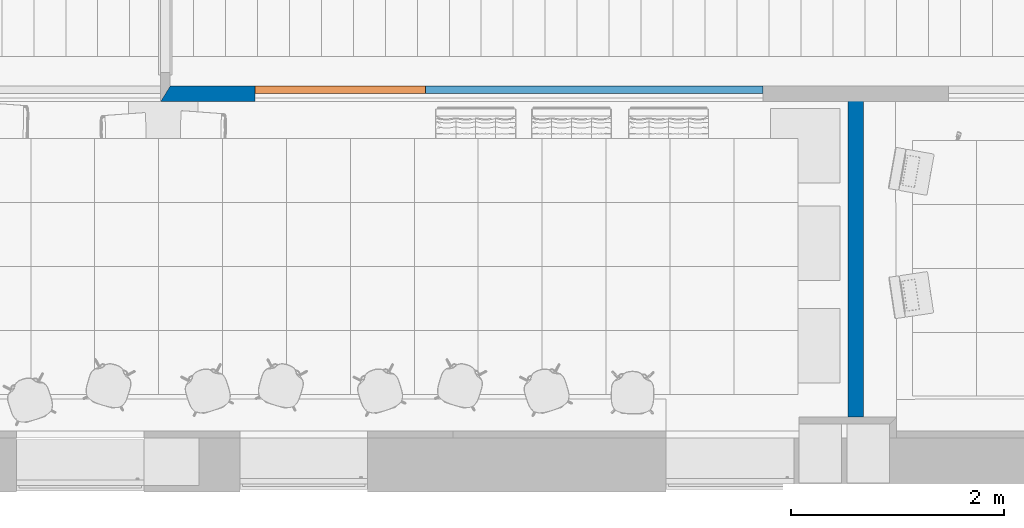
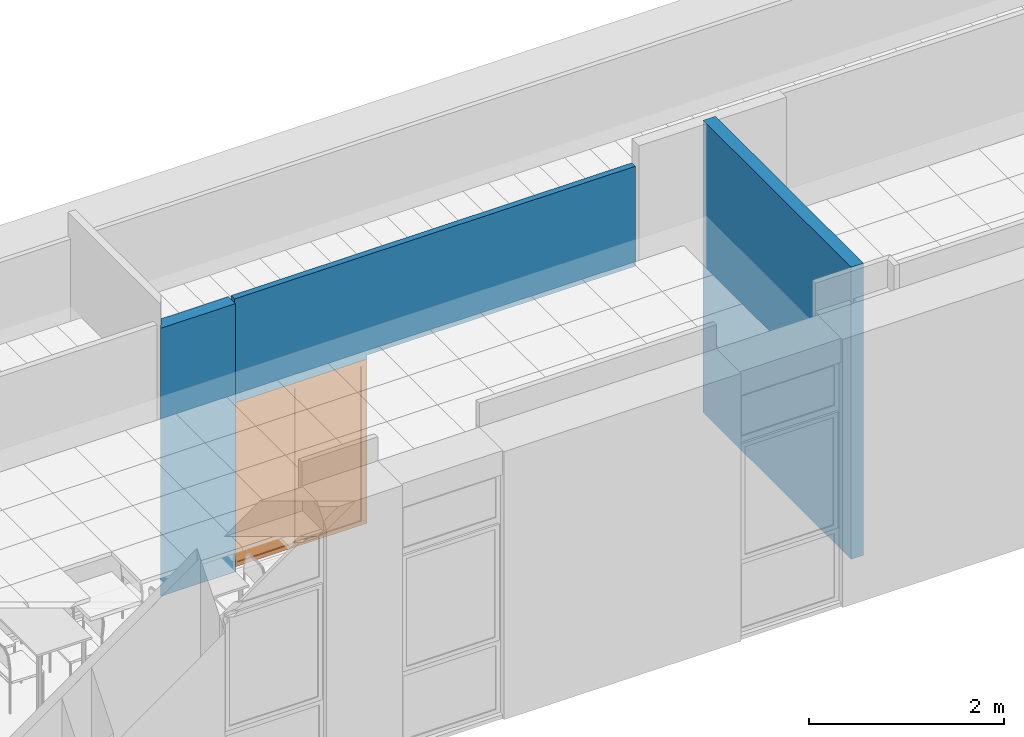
# One storey, part 36 of 60: 3 walls, 1 proxy, 2 openings.
"""IFC2X3 building model written with IfcOpenShell, lengths in millimetres."""

from ifc_helpers import new_model, entity, si_unit, converted_unit, derived_unit, money_unit, direction, frame, origin_with_axes, origin_2d_with_axis, place, context, subcontext, project, spatial, polyline, rectangle, outline, extrude, open_shell, faceted_brep, surface_model, source, transform, mapped, material, layer, layer_set, layer_usage, type_object, element, fill, save


model = new_model("IFC2X3")

# Units and contexts
model_context = context("Model", 3, precision=0.01, world=origin_with_axes(), true_north=direction((0.0, 1.0)))
body_context = subcontext(model_context, "Body", "Model", "MODEL_VIEW")
ifc_project = project(units=[si_unit("LENGTHUNIT", "METRE", prefix="MILLI"), si_unit("AREAUNIT", "SQUARE_METRE"), si_unit("VOLUMEUNIT", "CUBIC_METRE"), converted_unit("PLANEANGLEUNIT", "DEGREE", entity("IfcPlaneAngleMeasure", 0.0174532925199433), si_unit("PLANEANGLEUNIT", "RADIAN"), dimensions=[0, 0, 0, 0, 0, 0, 0]), money_unit("USD"), converted_unit("TIMEUNIT", "Year", entity("IfcTimeMeasure", 31557600.0), si_unit("TIMEUNIT", "SECOND"), dimensions=[0, 0, 1, 0, 0, 0, 0]), si_unit("MASSUNIT", "GRAM", prefix="KILO"), si_unit("THERMODYNAMICTEMPERATUREUNIT", "DEGREE_CELSIUS"), si_unit("LUMINOUSINTENSITYUNIT", "LUMEN"), si_unit("ENERGYUNIT", "JOULE", prefix="MEGA"), derived_unit("THERMALCONDUCTANCEUNIT", [(si_unit("POWERUNIT", "WATT"), 1), (si_unit("LENGTHUNIT", "METRE"), -1), (si_unit("THERMODYNAMICTEMPERATUREUNIT", "KELVIN"), -1)]), derived_unit("SPECIFICHEATCAPACITYUNIT", [(si_unit("ENERGYUNIT", "JOULE"), 1), (si_unit("MASSUNIT", "GRAM", prefix="KILO"), -1), (si_unit("THERMODYNAMICTEMPERATUREUNIT", "KELVIN"), -1)]), derived_unit("MASSDENSITYUNIT", [(si_unit("MASSUNIT", "GRAM", prefix="KILO"), 1), (si_unit("VOLUMEUNIT", "CUBIC_METRE"), -1)])], contexts=[model_context])

# Site, building, storey
site_placement = place(None, origin_with_axes())
site = spatial("IfcSite", under=ifc_project, at=site_placement, Name="Sitio", CompositionType="ELEMENT")
building_placement = place(site_placement, origin_with_axes())
building = spatial("IfcBuilding", under=site, at=building_placement, Name="Construcción", CompositionType="ELEMENT")
storey_placement = place(building_placement, frame((0.0, 0.0, 3650.0), z_axis=(0.0, 0.0, 1.0), x_axis=(1.0, 0.0, 0.0)))
storey = spatial("IfcBuildingStorey", under=building, at=storey_placement, Name="PLANTA 2ª", CompositionType="ELEMENT", Elevation=3650.0)

# Wall, openings, proxy
ifc_material_1 = material(Name="Panel de Yeso Laminado")
ifc_layer_1 = layer(ifc_material_1, 5.0, ventilated="UNKNOWN")
ifc_material_2 = material(Name="ARQ_AI033_Aillament_Llana_De_Roca")
ifc_layer_2 = layer(ifc_material_2, 60.0, ventilated="UNKNOWN")
ifc_layer_3 = layer(ifc_material_1, 5.0, ventilated="UNKNOWN")
ifc_layer_set_1 = layer_set([ifc_layer_1, ifc_layer_2, ifc_layer_3], Name="CR- MAMPARA")
ifc_layer_usage_1 = layer_usage(ifc_layer_set_1, "AXIS2", "POSITIVE", 0.0)
wall_type_1 = type_object("IfcWallType", Name="CR- MAMPARA 70", PredefinedType="NOTDEFINED")
wall_1_placement = place(storey_placement, frame((-13225.05292641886, 2109.554870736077, 0.0), z_axis=(0.0, 0.0, 1.0), x_axis=(-1.0, 0.0, 0.0)))
wall_1 = element("IfcWallStandardCase", 1, at=wall_1_placement, inside=storey, type_object=wall_type_1, material=ifc_layer_usage_1, Name="MS-214", context=body_context, shape_type="SweptSolid", body=[
    extrude(outline(polyline([(0.0, 0.0), (4737.123026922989, 0.0), (4737.123026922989, 69.99999999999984), (0.0, 69.99999999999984), (0.0, 0.0)])), origin_with_axes(), (0.0, 0.0, 1.0), 3350.0),
])
opening_1_placement = place(wall_1_placement, frame((1584.988959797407, 0.0, 0.0), z_axis=(0.0, 0.0, 1.0), x_axis=(1.0, 0.0, 0.0)))
element("IfcOpeningElement", 2, at=opening_1_placement, cuts=wall_1, Name="M-13", context=body_context, shape_type="SweptSolid", body=[
    extrude(rectangle(XDim=3169.977919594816, YDim=2100.0, at=origin_2d_with_axis()), frame((0.0, -69.99999999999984, 1050.0), z_axis=(0.0, 1.0, 0.0), x_axis=(-1.0, 0.0, 0.0)), (0.0, 0.0, 1.0), 210.0),
])
opening_2_placement = place(wall_1_placement, frame((3969.977919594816, 0.0, 0.0), z_axis=(0.0, 0.0, 1.0), x_axis=(1.0, 0.0, 0.0)))
opening_2 = element("IfcOpeningElement", 3, at=opening_2_placement, cuts=wall_1, Name="PM-4", context=body_context, shape_type="SweptSolid", body=[
    extrude(rectangle(XDim=1600.000000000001, YDim=2050.0, at=origin_2d_with_axis()), frame((0.0, -69.99999999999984, 1025.0), z_axis=(0.0, 1.0, 0.0), x_axis=(1.0, 0.0, 0.0)), (0.0, 0.0, 1.0), 210.0),
])
building_element_proxy_type = type_object("IfcBuildingElementProxyType", Name="Puerta Doble 27", PredefinedType="NOTDEFINED")
shared_shape = source(origin_with_axes(), body_context, "Body", "SurfaceModel", [
    faceted_brep([(-770.0, -40.0, 0.0), (-770.0, -40.0, 2020.0), (-770.0, -70.0, 2020.0), (-770.0, -70.0, 0.0), (-782.0, -40.0, 2020.0), (-782.0, -40.0, 0.0), (-782.0, 0.0, 2020.0), (-800.0, 0.0, 2020.0), (-800.0, -70.0, 2020.0), (-800.0, -70.0, 0.0), (-800.0, 0.0, 0.0), (-782.0, 0.0, 0.0)], [[[0, 1, 2, 3]], [[4, 1, 0, 5]], [[4, 6, 7, 8, 2, 1]], [[3, 2, 8, 9]], [[5, 0, 3, 9, 10, 11]], [[6, 4, 5, 11]], [[6, 11, 10, 7]], [[10, 9, 8, 7]]]),
    faceted_brep([(782.0, -40.0, 2020.0), (770.0, -40.0, 2020.0), (770.0, -70.0, 2020.0), (800.0, -70.0, 2020.0), (800.0, 0.0, 2020.0), (782.0, 0.0, 2020.0), (782.0, -40.0, 0.0), (770.0, -40.0, 0.0), (770.0, -70.0, 0.0), (800.0, -70.0, 0.0), (800.0, 0.0, 0.0), (782.0, 0.0, 0.0)], [[[0, 1, 2, 3, 4, 5]], [[1, 0, 6, 7]], [[1, 7, 8, 2]], [[3, 2, 8, 9]], [[4, 3, 9, 10]], [[11, 5, 4, 10]], [[0, 5, 11, 6]], [[6, 11, 10, 9, 8, 7]]]),
    faceted_brep([(-782.0, 0.0, 2032.0), (-782.0, 0.0, 2020.0), (-800.0, 0.0, 2020.0), (-800.0, 0.0, 2050.0), (800.0, 0.0, 2050.0), (800.0, 0.0, 2020.0), (782.0, 0.0, 2020.0), (782.0, 0.0, 2032.0), (-782.0, -40.0, 2032.0), (-782.0, -40.0, 2020.0), (-770.0, -40.0, 2020.0), (-770.0, -70.0, 2020.0), (-800.0, -70.0, 2020.0), (-800.0, -70.0, 2050.0), (800.0, -70.0, 2050.0), (800.0, -70.0, 2020.0), (782.0, -40.0, 2020.0), (770.0, -70.0, 2020.0), (770.0, -40.0, 2020.0), (782.0, -40.0, 2032.0)], [[[0, 1, 2, 3, 4, 5, 6, 7]], [[1, 0, 8, 9]], [[9, 10, 11, 12, 2, 1]], [[2, 12, 13, 3]], [[3, 13, 14, 4]], [[4, 14, 15, 5]], [[16, 6, 5, 15, 17, 18]], [[7, 6, 16, 19]], [[0, 7, 19, 8]], [[16, 18, 10, 9, 8, 19]], [[10, 18, 17, 11]], [[17, 15, 14, 13, 12, 11]]]),
    faceted_brep([(782.0, 0.0, 50.0), (782.0, -40.0, 50.0), (732.0, -40.0, 50.0), (732.0, 0.0, 50.0), (782.0, 0.0, 1982.0), (782.0, -40.00000000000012, 1982.0), (732.0, -40.00000000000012, 1982.0), (732.0, 0.0, 1982.0)], [[[0, 1, 2, 3]], [[4, 5, 1, 0]], [[1, 5, 6, 2]], [[3, 2, 6, 7]], [[0, 3, 7, 4]], [[7, 6, 5, 4]]]),
    faceted_brep([(0.0, 0.0, 50.0), (0.0, -40.0, 50.0), (0.0, -40.00000000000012, 1982.0), (0.0, 0.0, 1982.0), (49.99999999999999, 0.0, 50.0), (49.99999999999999, -40.0, 50.0), (49.99999999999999, -40.00000000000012, 1982.0), (49.99999999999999, 0.0, 1982.0)], [[[0, 1, 2, 3]], [[4, 5, 1, 0]], [[1, 5, 6, 2]], [[3, 2, 6, 7]], [[0, 3, 7, 4]], [[7, 6, 5, 4]]]),
    faceted_brep([(782.0, 0.0, 0.0), (782.0, -40.0, 0.0), (0.0, -40.0, 0.0), (0.0, 0.0, 0.0), (782.0, 0.0, 50.0), (782.0, -40.0, 50.0), (732.0, -40.0, 50.0), (49.99999999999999, -40.0, 50.0), (0.0, -40.0, 50.0), (0.0, 0.0, 50.0), (49.99999999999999, 0.0, 50.0), (732.0, 0.0, 50.0)], [[[0, 1, 2, 3]], [[4, 5, 1, 0]], [[1, 5, 6, 7, 8, 2]], [[3, 2, 8, 9]], [[0, 3, 9, 10, 11, 4]], [[11, 6, 5, 4]], [[10, 7, 6, 11]], [[9, 8, 7, 10]]]),
    faceted_brep([(782.0, 0.0, 2032.0), (782.0, -40.00000000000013, 2032.0), (782.0, -40.00000000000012, 1982.0), (782.0, 0.0, 1982.0), (0.0, 0.0, 2032.0), (0.0, -40.00000000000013, 2032.0), (0.0, -40.00000000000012, 1982.0), (49.99999999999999, -40.00000000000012, 1982.0), (732.0, -40.00000000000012, 1982.0), (732.0, 0.0, 1982.0), (49.99999999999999, 0.0, 1982.0), (0.0, 0.0, 1982.0)], [[[0, 1, 2, 3]], [[4, 5, 1, 0]], [[1, 5, 6, 7, 8, 2]], [[3, 2, 8, 9]], [[0, 3, 9, 10, 11, 4]], [[11, 6, 5, 4]], [[10, 7, 6, 11]], [[9, 8, 7, 10]]]),
    surface_model("IfcShellBasedSurfaceModel", [(732.0, -14.0, 50.0), (49.99999999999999, -14.0, 50.0), (49.99999999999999, -14.0, 1982.0), (732.0, -14.0, 1982.0)], [open_shell([[[0, 1, 2, 3]]])]),
    surface_model("IfcShellBasedSurfaceModel", [(732.0, -26.0, 50.0), (732.0, -26.0, 1982.0), (49.99999999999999, -26.0, 1982.0), (49.99999999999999, -26.0, 50.0)], [open_shell([[[0, 1, 2, 3]]])]),
    faceted_brep([(-782.0, 0.0, 50.0), (-732.0, 0.0, 50.0), (-732.0, -40.0, 50.0), (-782.0, -40.0, 50.0), (-782.0, 0.0, 1982.0), (-732.0, 0.0, 1982.0), (-732.0, -40.00000000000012, 1982.0), (-782.0, -40.00000000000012, 1982.0)], [[[0, 1, 2, 3]], [[0, 4, 5, 1]], [[1, 5, 6, 2]], [[3, 2, 6, 7]], [[4, 0, 3, 7]], [[5, 4, 7, 6]]]),
    faceted_brep([(0.0, 0.0, 50.0), (0.0, 0.0, 1982.0), (0.0, -40.00000000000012, 1982.0), (0.0, -40.0, 50.0), (-49.99999999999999, 0.0, 50.0), (-49.99999999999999, 0.0, 1982.0), (-49.99999999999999, -40.00000000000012, 1982.0), (-49.99999999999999, -40.0, 50.0)], [[[0, 1, 2, 3]], [[0, 4, 5, 1]], [[1, 5, 6, 2]], [[3, 2, 6, 7]], [[4, 0, 3, 7]], [[5, 4, 7, 6]]]),
    faceted_brep([(-782.0, 0.0, 0.0), (0.0, 0.0, 0.0), (0.0, -40.0, 0.0), (-782.0, -40.0, 0.0), (-782.0, 0.0, 50.0), (-732.0, 0.0, 50.0), (-49.99999999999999, 0.0, 50.0), (0.0, 0.0, 50.0), (0.0, -40.0, 50.0), (-49.99999999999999, -40.0, 50.0), (-732.0, -40.0, 50.0), (-782.0, -40.0, 50.0)], [[[0, 1, 2, 3]], [[0, 4, 5, 6, 7, 1]], [[1, 7, 8, 2]], [[3, 2, 8, 9, 10, 11]], [[4, 0, 3, 11]], [[5, 4, 11, 10]], [[6, 5, 10, 9]], [[7, 6, 9, 8]]]),
    faceted_brep([(-782.0, 0.0, 2032.0), (-782.0, 0.0, 1982.0), (-782.0, -40.00000000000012, 1982.0), (-782.0, -40.00000000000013, 2032.0), (0.0, 0.0, 2032.0), (0.0, 0.0, 1982.0), (-49.99999999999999, 0.0, 1982.0), (-732.0, 0.0, 1982.0), (-732.0, -40.00000000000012, 1982.0), (-49.99999999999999, -40.00000000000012, 1982.0), (0.0, -40.00000000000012, 1982.0), (0.0, -40.00000000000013, 2032.0)], [[[0, 1, 2, 3]], [[0, 4, 5, 6, 7, 1]], [[1, 7, 8, 2]], [[3, 2, 8, 9, 10, 11]], [[4, 0, 3, 11]], [[5, 4, 11, 10]], [[6, 5, 10, 9]], [[7, 6, 9, 8]]]),
    surface_model("IfcShellBasedSurfaceModel", [(-732.0, -14.0, 50.0), (-732.0, -14.0, 1982.0), (-49.99999999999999, -14.0, 1982.0), (-49.99999999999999, -14.0, 50.0)], [open_shell([[[0, 1, 2, 3]]])]),
    surface_model("IfcShellBasedSurfaceModel", [(-732.0, -26.0, 50.0), (-49.99999999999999, -26.0, 50.0), (-49.99999999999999, -26.0, 1982.0), (-732.0, -26.0, 1982.0)], [open_shell([[[0, 1, 2, 3]]])]),
])
proxy_placement = place(opening_2_placement, frame((-800.0000000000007, 0.0, 0.0), z_axis=(0.0, 0.0, 1.0), x_axis=(1.0, 0.0, 0.0)))
proxy = element("IfcBuildingElementProxy", 4, at=proxy_placement, inside=storey, type_object=building_element_proxy_type, Name="PM-4", context=body_context, shape_type="MappedRepresentation", body=[
    mapped(shared_shape, transform((800.0000000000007, 70.00000000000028, 0.0))),
])
fill(opening_2, proxy)

# Walls
ifc_material_3 = material(Name="ARQ_FU093_Panellat_HPL")
ifc_layer_4 = layer(ifc_material_3, 6.0, ventilated="UNKNOWN")
ifc_material_4 = material(Name="ARQ_EN271_Camara_Aire")
ifc_layer_5 = layer(ifc_material_4, 6.0, ventilated="UNKNOWN")
ifc_layer_6 = layer(ifc_material_1, 13.0, ventilated="UNKNOWN")
ifc_layer_7 = layer(ifc_material_1, 13.0, ventilated="UNKNOWN")
ifc_layer_8 = layer(ifc_material_2, 70.0, ventilated="UNKNOWN")
ifc_layer_9 = layer(ifc_material_1, 13.0, ventilated="UNKNOWN")
ifc_layer_10 = layer(ifc_material_1, 13.0, ventilated="UNKNOWN")
ifc_layer_11 = layer(ifc_material_4, 6.0, ventilated="UNKNOWN")
ifc_layer_12 = layer(ifc_material_3, 6.0, ventilated="UNKNOWN")
ifc_layer_set_2 = layer_set([ifc_layer_4, ifc_layer_5, ifc_layer_6, ifc_layer_7, ifc_layer_8, ifc_layer_9, ifc_layer_10, ifc_layer_11, ifc_layer_12], Name="CR Pladur 70 HPL 2 cares")
ifc_layer_usage_2 = layer_usage(ifc_layer_set_2, "AXIS2", "POSITIVE", 0.0)
wall_type_2 = type_object("IfcWallType", Name="CR Pladur 70 HPL 2 cares 146", PredefinedType="NOTDEFINED")
wall_2_placement = place(storey_placement, frame((-17995.03084601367, 2109.554870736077, 0.0), z_axis=(0.0, 0.0, 1.0), x_axis=(-1.0, 0.0, 0.0)))
element("IfcWallStandardCase", 5, at=wall_2_placement, inside=storey, type_object=wall_type_2, material=ifc_layer_usage_2, Name="MS-214", context=body_context, shape_type="SweptSolid", body=[
    extrude(outline(polyline([(0.0, 0.0), (795.2546477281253, 0.0), (885.2546477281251, 145.9999999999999), (0.0, 145.9999999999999), (0.0, 0.0)])), origin_with_axes(), (0.0, 0.0, 1.0), 3350.0),
])
ifc_layer_usage_3 = layer_usage(ifc_layer_set_2, "AXIS2", "NEGATIVE", 0.0)
wall_3_placement = place(storey_placement, frame((-12428.83549084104, -1061.805203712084, 0.0), z_axis=(0.0, 0.0, 1.0), x_axis=(0.0, 1.0, 0.0)))
element("IfcWallStandardCase", 6, at=wall_3_placement, inside=storey, type_object=wall_type_2, material=ifc_layer_usage_3, Name="MS-211", context=body_context, shape_type="SweptSolid", body=[
    extrude(outline(polyline([(64.99999999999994, -146.0000000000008), (3096.360074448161, -146.0000000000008), (3096.360074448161, 0.0), (64.99999999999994, 0.0), (64.99999999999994, -146.0000000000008)])), origin_with_axes(), (0.0, 0.0, 1.0), 3650.0),
])

save(model, "model.ifc")
